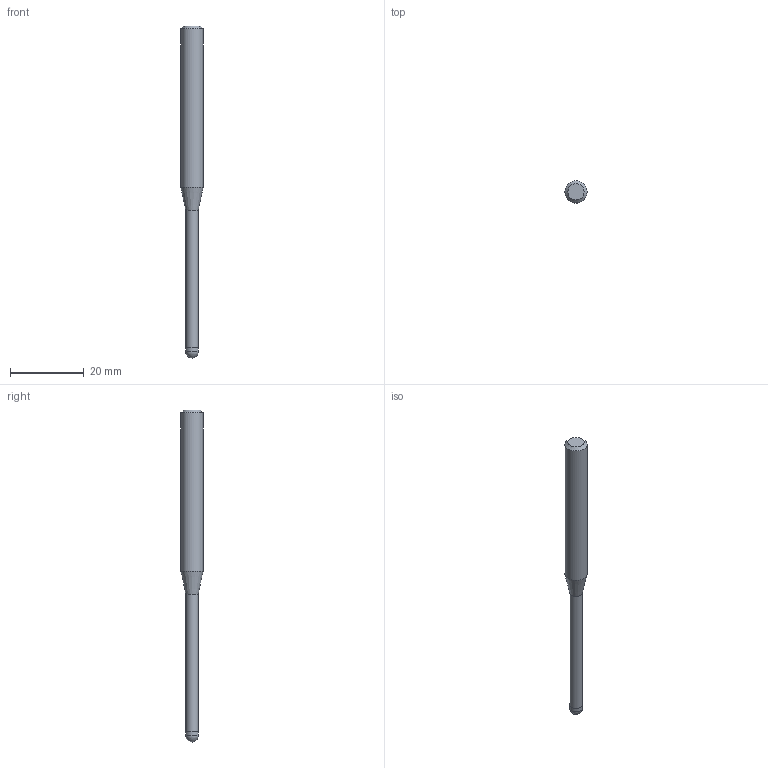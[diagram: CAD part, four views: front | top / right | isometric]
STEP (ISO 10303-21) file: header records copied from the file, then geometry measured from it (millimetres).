
FILE_DESCRIPTION((''),'2;1');
FILE_NAME('C:\Users\nsx150\AppData\Local\Temp\Mastercam 2021\3SYKECWX22\TEMP.step','2021-04-22T10:05:15',(''),(''),'STEP Write','Mastercam 2021 ... CNC Software, Inc.','');
FILE_SCHEMA(('AUTOMOTIVE_DESIGN'));
Length unit declared in the file: millimetre
Products named in the file (1): None
Bounding box: 6 x 6 x 90 mm (x, y, z)
Volume: 1691 mm3; surface area: 1377.9 mm2
Topology: 2 solids, 2 shells, 9 faces, 14 edges, 8 vertices
Faces by surface type: plane 3, cylinder 3, cone 2, sphere 1
Full cylindrical faces by diameter (mm): 3.35 x1, 3.5 x1, 6 x1
Entity records: 211 total; most frequent: DIRECTION 36, CARTESIAN_POINT 25, AXIS2_PLACEMENT_3D 18, ORIENTED_EDGE 14, EDGE_LOOP 14, STYLED_ITEM 12, ADVANCED_FACE 9, FACE_BOUND 8
